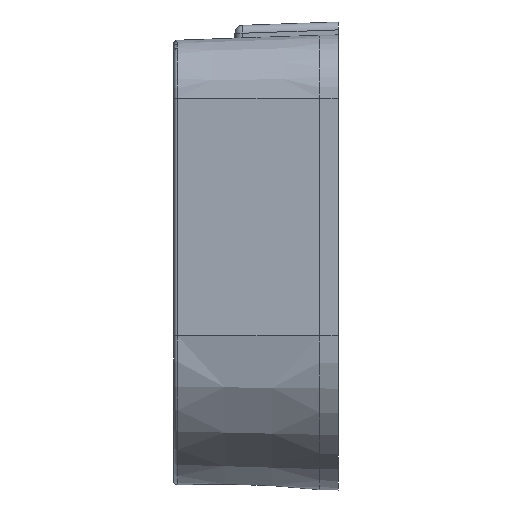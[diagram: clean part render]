
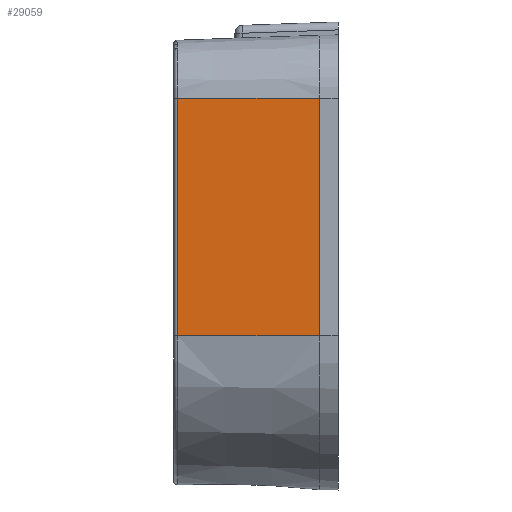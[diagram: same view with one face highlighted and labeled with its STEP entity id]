
A CAD part, left-side view. The second image highlights one B-rep face of the part: STEP entity #29059.
In plain terms, the highlighted planar face has unit normal (-0.999, 0.035, 0).
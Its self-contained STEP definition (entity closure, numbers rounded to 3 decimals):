
#474=PLANE('',#30965);
#2048=FACE_OUTER_BOUND('',#3664,.T.);
#3664=EDGE_LOOP('',(#19998,#19999,#20000,#20001));
#5449=LINE('',#45122,#7744);
#5466=LINE('',#45221,#7761);
#5562=LINE('',#45485,#7857);
#5563=LINE('',#45487,#7858);
#7744=VECTOR('',#34964,1000.);
#7761=VECTOR('',#35023,1000.);
#7857=VECTOR('',#35219,1000.);
#7858=VECTOR('',#35222,1000.);
#11840=VERTEX_POINT('',#45066);
#11861=VERTEX_POINT('',#45120);
#11898=VERTEX_POINT('',#45219);
#12000=VERTEX_POINT('',#45483);
#14924=EDGE_CURVE('',#11861,#11840,#5449,.T.);
#14963=EDGE_CURVE('',#11898,#11861,#5466,.T.);
#15089=EDGE_CURVE('',#11898,#12000,#5562,.T.);
#15090=EDGE_CURVE('',#12000,#11840,#5563,.T.);
#19998=ORIENTED_EDGE('',*,*,#15089,.T.);
#19999=ORIENTED_EDGE('',*,*,#15090,.T.);
#20000=ORIENTED_EDGE('',*,*,#14924,.F.);
#20001=ORIENTED_EDGE('',*,*,#14963,.F.);
#29059=ADVANCED_FACE('',(#2048),#474,.T.);
#30965=AXIS2_PLACEMENT_3D('',#45486,#35220,#35221);
#34964=DIRECTION('',(0.035,0.999,0.));
#35023=DIRECTION('',(0.,0.,-1.));
#35219=DIRECTION('',(0.035,0.999,0.));
#35220=DIRECTION('center_axis',(-0.999,0.035,0.));
#35221=DIRECTION('ref_axis',(-0.035,-0.999,0.));
#35222=DIRECTION('',(0.,0.,-1.));
#45066=CARTESIAN_POINT('',(-14.995,16.203,0.));
#45120=CARTESIAN_POINT('',(-15.494,1.905,0.));
#45122=CARTESIAN_POINT('',(-15.494,1.905,0.));
#45219=CARTESIAN_POINT('',(-15.494,1.905,23.927));
#45221=CARTESIAN_POINT('',(-15.494,1.905,23.927));
#45483=CARTESIAN_POINT('',(-14.995,16.203,23.927));
#45485=CARTESIAN_POINT('',(-15.494,1.905,23.927));
#45486=CARTESIAN_POINT('Origin',(-15.494,1.905,23.927));
#45487=CARTESIAN_POINT('',(-14.995,16.203,0.));
